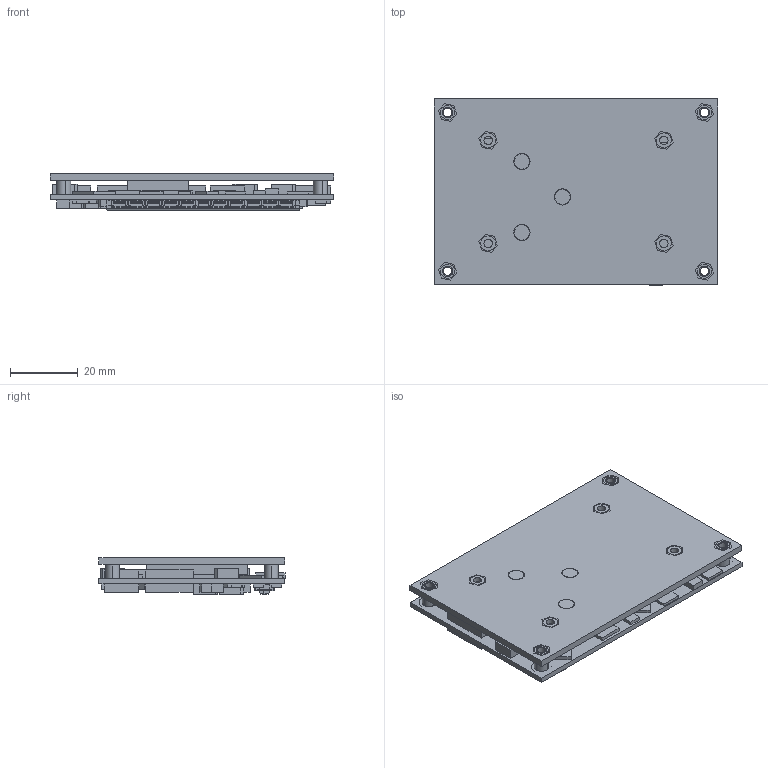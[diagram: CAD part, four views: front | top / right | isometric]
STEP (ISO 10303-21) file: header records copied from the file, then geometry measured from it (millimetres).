
FILE_DESCRIPTION (( 'STEP AP214' ), '1' );
FILE_NAME ('comex-IE38.STEP', '2016-12-15T10:44:23', ( 'Airtop' ), ( '' ), 'SwSTEP 2.0', 'SolidWorks 2015', '' );
FILE_SCHEMA (( 'AUTOMOTIVE_DESIGN' ));
Length unit declared in the file: millimetre
Products named in the file (11): COMEX-IE38; Main Plate PCB 2; HS-2015-05 (Small Plate IE38); F-M2.5-1; connector; MS20426 AD3-5(5_16)(L=4.7); TSOS-M2.5-6; HS-2015-01 & 02 (Main Plate IE38)_Thru Hole PCB 2; sos-43.1-6; comex-IE38; 206B10330 & 40 (HEAT SPREADER IE38)
Assembly tree (21 placements, depth 4):
  comex-IE38
    COMEX-IE38
    206B10330 & 40 (HEAT SPREADER IE38)
      HS-2015-01 & 02 (Main Plate IE38)_Thru Hole PCB 2
        Main Plate PCB 2
        F-M2.5-1  x4
        TSOS-M2.5-6  x4
        sos-43.1-6  x4
      HS-2015-05 (Small Plate IE38)
      MS20426 AD3-5(5_16)(L=4.7)  x3
    connector
Bounding box: 84 x 55.07 x 10.87 mm (x, y, z)
Volume: 25627.2 mm3; surface area: 33593 mm2
Topology: 70 solids, 70 shells, 4038 faces, 10933 edges, 7266 vertices
Faces by surface type: plane 3654, cylinder 356, cone 28
Entity records: 126469 total; most frequent: CARTESIAN_POINT 21767, ORIENTED_EDGE 21378, DIRECTION 19241, EDGE_CURVE 10689, VECTOR 10033, LINE 10033, VERTEX_POINT 7106, AXIS2_PLACEMENT_3D 4604
